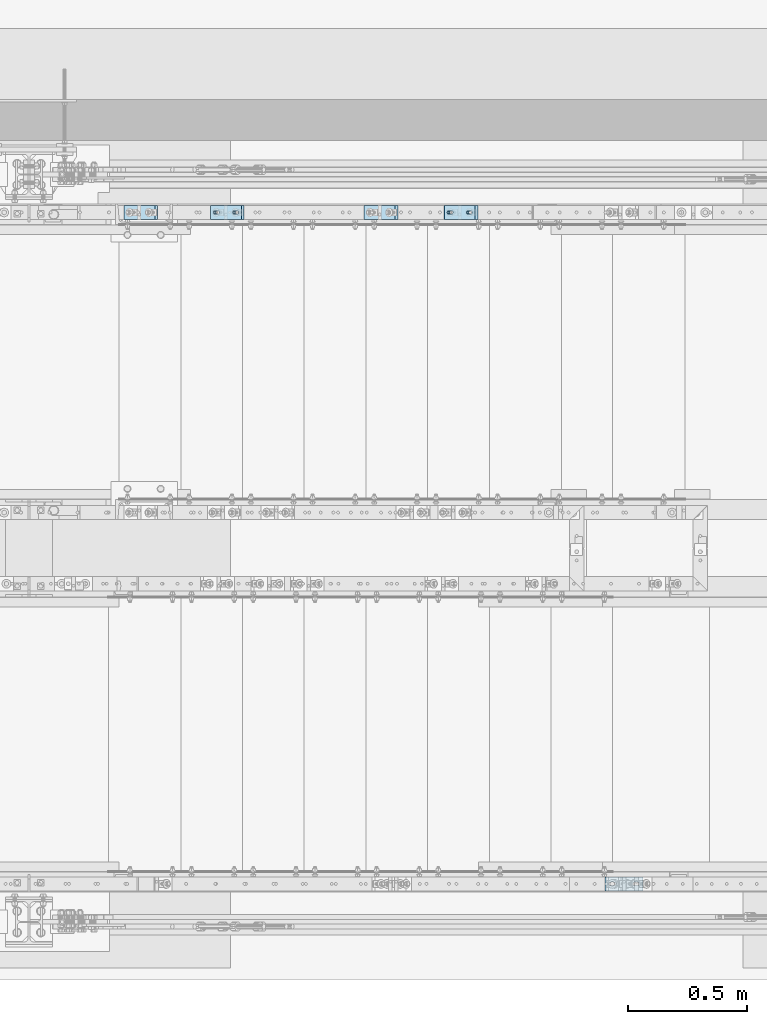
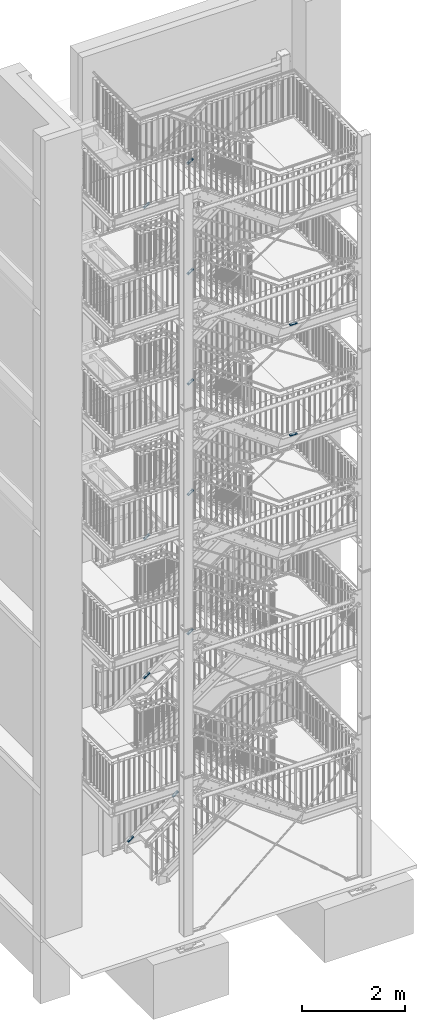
# One storey, part 197 of 831: 12 plates, 24 openings.
"""IFC2X3 building model written with IfcOpenShell, lengths in millimetres."""

from ifc_helpers import new_model, entity, si_unit, converted_unit, point, frame, frame_2d, origin, origin_with_axes, place, context, project, spatial, polyline, circle_curve, line_curve, trimmed, segment, composite_curve, outline, extrude, material, layer, layer_set, element, save


model = new_model("IFC2X3")

# Units and contexts
model_context = context("Model", 3, precision=1e-09, world=origin_with_axes())
ifc_project = project(units=[si_unit("LENGTHUNIT", "METRE", prefix="MILLI"), si_unit("AREAUNIT", "SQUARE_METRE"), si_unit("VOLUMEUNIT", "CUBIC_METRE"), converted_unit("PLANEANGLEUNIT", "DEGREE", entity("IfcPlaneAngleMeasure", 0.01745329), si_unit("PLANEANGLEUNIT", "RADIAN"), dimensions=[0, 0, 0, 0, 0, 0, 0])], contexts=[model_context])

# Site, building, storey
site_placement = place(None, origin_with_axes())
site = spatial("IfcSite", under=ifc_project, at=site_placement, Name="Site", CompositionType="ELEMENT")
building_placement = place(site_placement, origin_with_axes())
building = spatial("IfcBuilding", under=site, at=building_placement, Name="Struktur 1", CompositionType="ELEMENT")
storey_placement = place(building_placement, origin_with_axes())
storey = spatial("IfcBuildingStorey", under=building, at=storey_placement, Name="Default Storey", CompositionType="ELEMENT", Elevation=0.0)

# Plate, openings
ifc_material = material(Name="S235JR")
ifc_layer = layer(ifc_material, 20.0)
ifc_layer_set = layer_set([ifc_layer], Name="S235JR")
plate_1_placement = place(None, frame((6748.281324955, 7386.736971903, 11082.903552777), z_axis=(-0.585213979, 0.0, 0.810878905), x_axis=(-0.810878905, 0.0, -0.585213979)))
plate_1 = element("IfcPlate", 1, at=plate_1_placement, inside=storey, material=ifc_layer_set, Name="Plate#502", ObjectType="Plate#502", context=model_context, shape_type="SweptSolid", body=[
    extrude(outline(polyline([(0.0, 0.0), (160.0, 0.0), (160.0, 60.0), (0.0, 60.0), (0.0, 0.0)])), origin_with_axes(), (0.0, 0.0, 1.0), 20.0),
])
opening_1_placement = place(plate_1_placement, frame((38.0, 37.001, 20.5), z_axis=(0.0, 0.0, 1.0), x_axis=(-1.0, 0.0, 0.0)))
element("IfcOpeningElement", 2, at=opening_1_placement, cuts=plate_1, ObjectType="Opening", context=model_context, shape_type="SweptSolid", body=[
    extrude(outline(composite_curve([segment(trimmed(line_curve((0.0, 0.0), (1.0, 0.0), 16.0), [point((0.0, 0.0))], [point((16.0, 0.0))], True, "CARTESIAN"), True, "CONTINUOUS"), segment(trimmed(circle_curve(frame_2d((16.0, 7.001), x_axis=(1.0, 0.0)), 7.001), [point((16.0, 0.0))], [point((16.0, 14.002))], True, "CARTESIAN"), True, "CONTINUOUS"), segment(trimmed(line_curve((16.0, 14.002), (-1.0, 0.0), 16.0), [point((16.0, 14.002))], [point((0.0, 14.002))], True, "CARTESIAN"), True, "CONTINUOUS"), segment(trimmed(circle_curve(frame_2d((0.0, 7.001), x_axis=(1.0, 0.0)), 7.001), [point((0.0, 14.002))], [point((0.0, 0.0))], True, "CARTESIAN"), True, "CONTINUOUS")], self_intersect=False)), origin(), (0.0, 0.0, -1.0), 21.0),
])
opening_2_placement = place(plate_1_placement, frame((138.0, 37.001, 20.5), z_axis=(0.0, 0.0, 1.0), x_axis=(-1.0, 0.0, 0.0)))
element("IfcOpeningElement", 3, at=opening_2_placement, cuts=plate_1, ObjectType="Opening", context=model_context, shape_type="SweptSolid", body=[
    extrude(outline(composite_curve([segment(trimmed(line_curve((0.0, 0.0), (1.0, 0.0), 16.0), [point((0.0, 0.0))], [point((16.0, 0.0))], True, "CARTESIAN"), True, "CONTINUOUS"), segment(trimmed(circle_curve(frame_2d((16.0, 7.001), x_axis=(1.0, 0.0)), 7.001), [point((16.0, 0.0))], [point((16.0, 14.002))], True, "CARTESIAN"), True, "CONTINUOUS"), segment(trimmed(line_curve((16.0, 14.002), (-1.0, 0.0), 16.0), [point((16.0, 14.002))], [point((0.0, 14.002))], True, "CARTESIAN"), True, "CONTINUOUS"), segment(trimmed(circle_curve(frame_2d((0.0, 7.001), x_axis=(1.0, 0.0)), 7.001), [point((0.0, 14.002))], [point((0.0, 0.0))], True, "CARTESIAN"), True, "CONTINUOUS")], self_intersect=False)), origin(), (0.0, 0.0, -1.0), 21.0),
])

plate_2_placement = place(None, frame((7284.792117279, 4496.736971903, 11265.5000003), z_axis=(0.0, 0.0, 1.0), x_axis=(1.0, 0.0, 0.0)))
plate_2 = element("IfcPlate", 4, at=plate_2_placement, inside=storey, material=ifc_layer_set, Name="Plate#509", ObjectType="Plate#509", context=model_context, shape_type="SweptSolid", body=[
    extrude(outline(polyline([(0.0, 0.0), (160.0, 0.0), (160.0, 60.0), (0.0, 60.0), (0.0, 0.0)])), origin_with_axes(), (0.0, 0.0, 1.0), 20.0),
])
opening_3_placement = place(plate_2_placement, frame((38.0, 37.001, 20.5), z_axis=(0.0, 0.0, 1.0), x_axis=(-1.0, 0.0, 0.0)))
element("IfcOpeningElement", 5, at=opening_3_placement, cuts=plate_2, ObjectType="Opening", context=model_context, shape_type="SweptSolid", body=[
    extrude(outline(composite_curve([segment(trimmed(line_curve((0.0, 0.0), (1.0, 0.0), 16.0), [point((0.0, 0.0))], [point((16.0, 0.0))], True, "CARTESIAN"), True, "CONTINUOUS"), segment(trimmed(circle_curve(frame_2d((16.0, 7.001), x_axis=(1.0, 0.0)), 7.001), [point((16.0, 0.0))], [point((16.0, 14.002))], True, "CARTESIAN"), True, "CONTINUOUS"), segment(trimmed(line_curve((16.0, 14.002), (-1.0, 0.0), 16.0), [point((16.0, 14.002))], [point((0.0, 14.002))], True, "CARTESIAN"), True, "CONTINUOUS"), segment(trimmed(circle_curve(frame_2d((0.0, 7.001), x_axis=(1.0, 0.0)), 7.001), [point((0.0, 14.002))], [point((0.0, 0.0))], True, "CARTESIAN"), True, "CONTINUOUS")], self_intersect=False)), origin(), (0.0, 0.0, -1.0), 21.0),
])
opening_4_placement = place(plate_2_placement, frame((138.0, 37.001, 20.5), z_axis=(0.0, 0.0, 1.0), x_axis=(-1.0, 0.0, 0.0)))
element("IfcOpeningElement", 6, at=opening_4_placement, cuts=plate_2, ObjectType="Opening", context=model_context, shape_type="SweptSolid", body=[
    extrude(outline(composite_curve([segment(trimmed(line_curve((0.0, 0.0), (1.0, 0.0), 16.0), [point((0.0, 0.0))], [point((16.0, 0.0))], True, "CARTESIAN"), True, "CONTINUOUS"), segment(trimmed(circle_curve(frame_2d((16.0, 7.001), x_axis=(1.0, 0.0)), 7.001), [point((16.0, 0.0))], [point((16.0, 14.002))], True, "CARTESIAN"), True, "CONTINUOUS"), segment(trimmed(line_curve((16.0, 14.002), (-1.0, 0.0), 16.0), [point((16.0, 14.002))], [point((0.0, 14.002))], True, "CARTESIAN"), True, "CONTINUOUS"), segment(trimmed(circle_curve(frame_2d((0.0, 7.001), x_axis=(1.0, 0.0)), 7.001), [point((0.0, 14.002))], [point((0.0, 0.0))], True, "CARTESIAN"), True, "CONTINUOUS")], self_intersect=False)), origin(), (0.0, 0.0, -1.0), 21.0),
])

plate_3_placement = place(None, frame((6748.209294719, 7386.736971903, 13713.173537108), z_axis=(-0.586383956, 0.0, 0.810033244), x_axis=(-0.810033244, 0.0, -0.586383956)))
plate_3 = element("IfcPlate", 7, at=plate_3_placement, inside=storey, material=ifc_layer_set, Name="Plate#502", ObjectType="Plate#502", context=model_context, shape_type="SweptSolid", body=[
    extrude(outline(polyline([(0.0, 0.0), (160.0, 0.0), (160.0, 60.0), (0.0, 60.0), (0.0, 0.0)])), origin_with_axes(), (0.0, 0.0, 1.0), 20.0),
])
opening_5_placement = place(plate_3_placement, frame((38.0, 37.001, 20.5), z_axis=(0.0, 0.0, 1.0), x_axis=(-1.0, 0.0, 0.0)))
element("IfcOpeningElement", 8, at=opening_5_placement, cuts=plate_3, ObjectType="Opening", context=model_context, shape_type="SweptSolid", body=[
    extrude(outline(composite_curve([segment(trimmed(line_curve((0.0, 0.0), (1.0, 0.0), 16.0), [point((0.0, 0.0))], [point((16.0, 0.0))], True, "CARTESIAN"), True, "CONTINUOUS"), segment(trimmed(circle_curve(frame_2d((16.0, 7.001), x_axis=(1.0, 0.0)), 7.001), [point((16.0, 0.0))], [point((16.0, 14.002))], True, "CARTESIAN"), True, "CONTINUOUS"), segment(trimmed(line_curve((16.0, 14.002), (-1.0, 0.0), 16.0), [point((16.0, 14.002))], [point((0.0, 14.002))], True, "CARTESIAN"), True, "CONTINUOUS"), segment(trimmed(circle_curve(frame_2d((0.0, 7.001), x_axis=(1.0, 0.0)), 7.001), [point((0.0, 14.002))], [point((0.0, 0.0))], True, "CARTESIAN"), True, "CONTINUOUS")], self_intersect=False)), origin(), (0.0, 0.0, -1.0), 21.0),
])
opening_6_placement = place(plate_3_placement, frame((138.0, 37.001, 20.5), z_axis=(0.0, 0.0, 1.0), x_axis=(-1.0, 0.0, 0.0)))
element("IfcOpeningElement", 9, at=opening_6_placement, cuts=plate_3, ObjectType="Opening", context=model_context, shape_type="SweptSolid", body=[
    extrude(outline(composite_curve([segment(trimmed(line_curve((0.0, 0.0), (1.0, 0.0), 16.0), [point((0.0, 0.0))], [point((16.0, 0.0))], True, "CARTESIAN"), True, "CONTINUOUS"), segment(trimmed(circle_curve(frame_2d((16.0, 7.001), x_axis=(1.0, 0.0)), 7.001), [point((16.0, 0.0))], [point((16.0, 14.002))], True, "CARTESIAN"), True, "CONTINUOUS"), segment(trimmed(line_curve((16.0, 14.002), (-1.0, 0.0), 16.0), [point((16.0, 14.002))], [point((0.0, 14.002))], True, "CARTESIAN"), True, "CONTINUOUS"), segment(trimmed(circle_curve(frame_2d((0.0, 7.001), x_axis=(1.0, 0.0)), 7.001), [point((0.0, 14.002))], [point((0.0, 0.0))], True, "CARTESIAN"), True, "CONTINUOUS")], self_intersect=False)), origin(), (0.0, 0.0, -1.0), 21.0),
])

plate_4_placement = place(None, frame((7284.792117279, 4496.736971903, 13896.5000001), z_axis=(0.0, 0.0, 1.0), x_axis=(1.0, 0.0, 0.0)))
plate_4 = element("IfcPlate", 10, at=plate_4_placement, inside=storey, material=ifc_layer_set, Name="Plate#509", ObjectType="Plate#509", context=model_context, shape_type="SweptSolid", body=[
    extrude(outline(polyline([(0.0, 0.0), (160.0, 0.0), (160.0, 60.0), (0.0, 60.0), (0.0, 0.0)])), origin_with_axes(), (0.0, 0.0, 1.0), 20.0),
])
opening_7_placement = place(plate_4_placement, frame((38.0, 37.001, 20.5), z_axis=(0.0, 0.0, 1.0), x_axis=(-1.0, 0.0, 0.0)))
element("IfcOpeningElement", 11, at=opening_7_placement, cuts=plate_4, ObjectType="Opening", context=model_context, shape_type="SweptSolid", body=[
    extrude(outline(composite_curve([segment(trimmed(line_curve((0.0, 0.0), (1.0, 0.0), 16.0), [point((0.0, 0.0))], [point((16.0, 0.0))], True, "CARTESIAN"), True, "CONTINUOUS"), segment(trimmed(circle_curve(frame_2d((16.0, 7.001), x_axis=(1.0, 0.0)), 7.001), [point((16.0, 0.0))], [point((16.0, 14.002))], True, "CARTESIAN"), True, "CONTINUOUS"), segment(trimmed(line_curve((16.0, 14.002), (-1.0, 0.0), 16.0), [point((16.0, 14.002))], [point((0.0, 14.002))], True, "CARTESIAN"), True, "CONTINUOUS"), segment(trimmed(circle_curve(frame_2d((0.0, 7.001), x_axis=(1.0, 0.0)), 7.001), [point((0.0, 14.002))], [point((0.0, 0.0))], True, "CARTESIAN"), True, "CONTINUOUS")], self_intersect=False)), origin(), (0.0, 0.0, -1.0), 21.0),
])
opening_8_placement = place(plate_4_placement, frame((138.0, 37.001, 20.5), z_axis=(0.0, 0.0, 1.0), x_axis=(-1.0, 0.0, 0.0)))
element("IfcOpeningElement", 12, at=opening_8_placement, cuts=plate_4, ObjectType="Opening", context=model_context, shape_type="SweptSolid", body=[
    extrude(outline(composite_curve([segment(trimmed(line_curve((0.0, 0.0), (1.0, 0.0), 16.0), [point((0.0, 0.0))], [point((16.0, 0.0))], True, "CARTESIAN"), True, "CONTINUOUS"), segment(trimmed(circle_curve(frame_2d((16.0, 7.001), x_axis=(1.0, 0.0)), 7.001), [point((16.0, 0.0))], [point((16.0, 14.002))], True, "CARTESIAN"), True, "CONTINUOUS"), segment(trimmed(line_curve((16.0, 14.002), (-1.0, 0.0), 16.0), [point((16.0, 14.002))], [point((0.0, 14.002))], True, "CARTESIAN"), True, "CONTINUOUS"), segment(trimmed(circle_curve(frame_2d((0.0, 7.001), x_axis=(1.0, 0.0)), 7.001), [point((0.0, 14.002))], [point((0.0, 0.0))], True, "CARTESIAN"), True, "CONTINUOUS")], self_intersect=False)), origin(), (0.0, 0.0, -1.0), 21.0),
])

plate_5_placement = place(None, frame((5763.344213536, 7386.736971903, 15633.058440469), z_axis=(-0.584187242, 0.0, 0.811618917), x_axis=(-0.811618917, 0.0, -0.584187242)))
plate_5 = element("IfcPlate", 13, at=plate_5_placement, inside=storey, material=ifc_layer_set, Name="Plate#501", ObjectType="Plate#501", context=model_context, shape_type="SweptSolid", body=[
    extrude(outline(polyline([(0.0, 0.0), (160.0, 0.0), (160.0, 60.0), (0.0, 60.0), (0.0, 0.0)])), origin_with_axes(), (0.0, 0.0, 1.0), 20.0),
])
opening_9_placement = place(plate_5_placement, frame((38.0, 37.001, 20.5), z_axis=(0.0, 0.0, 1.0), x_axis=(-1.0, 0.0, 0.0)))
element("IfcOpeningElement", 14, at=opening_9_placement, cuts=plate_5, ObjectType="Opening", context=model_context, shape_type="SweptSolid", body=[
    extrude(outline(composite_curve([segment(trimmed(line_curve((0.0, 0.0), (1.0, 0.0), 16.0), [point((0.0, 0.0))], [point((16.0, 0.0))], True, "CARTESIAN"), True, "CONTINUOUS"), segment(trimmed(circle_curve(frame_2d((16.0, 7.001), x_axis=(1.0, 0.0)), 7.001), [point((16.0, 0.0))], [point((16.0, 14.002))], True, "CARTESIAN"), True, "CONTINUOUS"), segment(trimmed(line_curve((16.0, 14.002), (-1.0, 0.0), 16.0), [point((16.0, 14.002))], [point((0.0, 14.002))], True, "CARTESIAN"), True, "CONTINUOUS"), segment(trimmed(circle_curve(frame_2d((0.0, 7.001), x_axis=(1.0, 0.0)), 7.001), [point((0.0, 14.002))], [point((0.0, 0.0))], True, "CARTESIAN"), True, "CONTINUOUS")], self_intersect=False)), origin(), (0.0, 0.0, -1.0), 21.0),
])
opening_10_placement = place(plate_5_placement, frame((138.0, 37.001, 20.5), z_axis=(0.0, 0.0, 1.0), x_axis=(-1.0, 0.0, 0.0)))
element("IfcOpeningElement", 15, at=opening_10_placement, cuts=plate_5, ObjectType="Opening", context=model_context, shape_type="SweptSolid", body=[
    extrude(outline(composite_curve([segment(trimmed(line_curve((0.0, 0.0), (1.0, 0.0), 16.0), [point((0.0, 0.0))], [point((16.0, 0.0))], True, "CARTESIAN"), True, "CONTINUOUS"), segment(trimmed(circle_curve(frame_2d((16.0, 7.001), x_axis=(1.0, 0.0)), 7.001), [point((16.0, 0.0))], [point((16.0, 14.002))], True, "CARTESIAN"), True, "CONTINUOUS"), segment(trimmed(line_curve((16.0, 14.002), (-1.0, 0.0), 16.0), [point((16.0, 14.002))], [point((0.0, 14.002))], True, "CARTESIAN"), True, "CONTINUOUS"), segment(trimmed(circle_curve(frame_2d((0.0, 7.001), x_axis=(1.0, 0.0)), 7.001), [point((0.0, 14.002))], [point((0.0, 0.0))], True, "CARTESIAN"), True, "CONTINUOUS")], self_intersect=False)), origin(), (0.0, 0.0, -1.0), 21.0),
])

plate_6_placement = place(None, frame((6748.344356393, 7386.736971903, 16342.042059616), z_axis=(-0.584187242, 0.0, 0.811618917), x_axis=(-0.811618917, 0.0, -0.584187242)))
plate_6 = element("IfcPlate", 16, at=plate_6_placement, inside=storey, material=ifc_layer_set, Name="Plate#502", ObjectType="Plate#502", context=model_context, shape_type="SweptSolid", body=[
    extrude(outline(polyline([(0.0, 0.0), (160.0, 0.0), (160.0, 60.0), (0.0, 60.0), (0.0, 0.0)])), origin_with_axes(), (0.0, 0.0, 1.0), 20.0),
])
opening_11_placement = place(plate_6_placement, frame((38.0, 37.001, 20.5), z_axis=(0.0, 0.0, 1.0), x_axis=(-1.0, 0.0, 0.0)))
element("IfcOpeningElement", 17, at=opening_11_placement, cuts=plate_6, ObjectType="Opening", context=model_context, shape_type="SweptSolid", body=[
    extrude(outline(composite_curve([segment(trimmed(line_curve((0.0, 0.0), (1.0, 0.0), 16.0), [point((0.0, 0.0))], [point((16.0, 0.0))], True, "CARTESIAN"), True, "CONTINUOUS"), segment(trimmed(circle_curve(frame_2d((16.0, 7.001), x_axis=(1.0, 0.0)), 7.001), [point((16.0, 0.0))], [point((16.0, 14.002))], True, "CARTESIAN"), True, "CONTINUOUS"), segment(trimmed(line_curve((16.0, 14.002), (-1.0, 0.0), 16.0), [point((16.0, 14.002))], [point((0.0, 14.002))], True, "CARTESIAN"), True, "CONTINUOUS"), segment(trimmed(circle_curve(frame_2d((0.0, 7.001), x_axis=(1.0, 0.0)), 7.001), [point((0.0, 14.002))], [point((0.0, 0.0))], True, "CARTESIAN"), True, "CONTINUOUS")], self_intersect=False)), origin(), (0.0, 0.0, -1.0), 21.0),
])
opening_12_placement = place(plate_6_placement, frame((138.0, 37.001, 20.5), z_axis=(0.0, 0.0, 1.0), x_axis=(-1.0, 0.0, 0.0)))
element("IfcOpeningElement", 18, at=opening_12_placement, cuts=plate_6, ObjectType="Opening", context=model_context, shape_type="SweptSolid", body=[
    extrude(outline(composite_curve([segment(trimmed(line_curve((0.0, 0.0), (1.0, 0.0), 16.0), [point((0.0, 0.0))], [point((16.0, 0.0))], True, "CARTESIAN"), True, "CONTINUOUS"), segment(trimmed(circle_curve(frame_2d((16.0, 7.001), x_axis=(1.0, 0.0)), 7.001), [point((16.0, 0.0))], [point((16.0, 14.002))], True, "CARTESIAN"), True, "CONTINUOUS"), segment(trimmed(line_curve((16.0, 14.002), (-1.0, 0.0), 16.0), [point((16.0, 14.002))], [point((0.0, 14.002))], True, "CARTESIAN"), True, "CONTINUOUS"), segment(trimmed(circle_curve(frame_2d((0.0, 7.001), x_axis=(1.0, 0.0)), 7.001), [point((0.0, 14.002))], [point((0.0, 0.0))], True, "CARTESIAN"), True, "CONTINUOUS")], self_intersect=False)), origin(), (0.0, 0.0, -1.0), 21.0),
])

plate_7_placement = place(None, frame((5398.387570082, 7386.736971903, 670.208105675), z_axis=(-0.579973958, 0.0, 0.814635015), x_axis=(-0.814635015, 0.0, -0.579973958)))
plate_7 = element("IfcPlate", 19, at=plate_7_placement, inside=storey, material=ifc_layer_set, Name="Plate#500", ObjectType="Plate#500", context=model_context, shape_type="SweptSolid", body=[
    extrude(outline(polyline([(0.0, 0.0), (160.0, 0.0), (160.0, 60.0), (0.0, 60.0), (0.0, 0.0)])), origin_with_axes(), (0.0, 0.0, 1.0), 20.0),
])
opening_13_placement = place(plate_7_placement, frame((38.0, 37.001, 20.5), z_axis=(0.0, 0.0, 1.0), x_axis=(-1.0, 0.0, 0.0)))
element("IfcOpeningElement", 20, at=opening_13_placement, cuts=plate_7, ObjectType="Opening", context=model_context, shape_type="SweptSolid", body=[
    extrude(outline(composite_curve([segment(trimmed(line_curve((0.0, 0.0), (1.0, 0.0), 16.0), [point((0.0, 0.0))], [point((16.0, 0.0))], True, "CARTESIAN"), True, "CONTINUOUS"), segment(trimmed(circle_curve(frame_2d((16.0, 7.001), x_axis=(1.0, 0.0)), 7.001), [point((16.0, 0.0))], [point((16.0, 14.002))], True, "CARTESIAN"), True, "CONTINUOUS"), segment(trimmed(line_curve((16.0, 14.002), (-1.0, 0.0), 16.0), [point((16.0, 14.002))], [point((0.0, 14.002))], True, "CARTESIAN"), True, "CONTINUOUS"), segment(trimmed(circle_curve(frame_2d((0.0, 7.001), x_axis=(1.0, 0.0)), 7.001), [point((0.0, 14.002))], [point((0.0, 0.0))], True, "CARTESIAN"), True, "CONTINUOUS")], self_intersect=False)), origin(), (0.0, 0.0, -1.0), 21.0),
])
opening_14_placement = place(plate_7_placement, frame((138.0, 37.001, 20.5), z_axis=(0.0, 0.0, 1.0), x_axis=(-1.0, 0.0, 0.0)))
element("IfcOpeningElement", 21, at=opening_14_placement, cuts=plate_7, ObjectType="Opening", context=model_context, shape_type="SweptSolid", body=[
    extrude(outline(composite_curve([segment(trimmed(line_curve((0.0, 0.0), (1.0, 0.0), 16.0), [point((0.0, 0.0))], [point((16.0, 0.0))], True, "CARTESIAN"), True, "CONTINUOUS"), segment(trimmed(circle_curve(frame_2d((16.0, 7.001), x_axis=(1.0, 0.0)), 7.001), [point((16.0, 0.0))], [point((16.0, 14.002))], True, "CARTESIAN"), True, "CONTINUOUS"), segment(trimmed(line_curve((16.0, 14.002), (-1.0, 0.0), 16.0), [point((16.0, 14.002))], [point((0.0, 14.002))], True, "CARTESIAN"), True, "CONTINUOUS"), segment(trimmed(circle_curve(frame_2d((0.0, 7.001), x_axis=(1.0, 0.0)), 7.001), [point((0.0, 14.002))], [point((0.0, 0.0))], True, "CARTESIAN"), True, "CONTINUOUS")], self_intersect=False)), origin(), (0.0, 0.0, -1.0), 21.0),
])

plate_8_placement = place(None, frame((6411.464687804, 7386.736971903, 1391.461592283), z_axis=(-0.579973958, 0.0, 0.814635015), x_axis=(-0.814635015, 0.0, -0.579973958)))
plate_8 = element("IfcPlate", 22, at=plate_8_placement, inside=storey, material=ifc_layer_set, Name="Plate#501", ObjectType="Plate#501", context=model_context, shape_type="SweptSolid", body=[
    extrude(outline(polyline([(0.0, 0.0), (160.0, 0.0), (160.0, 60.0), (0.0, 60.0), (0.0, 0.0)])), origin_with_axes(), (0.0, 0.0, 1.0), 20.0),
])
opening_15_placement = place(plate_8_placement, frame((38.0, 37.001, 20.5), z_axis=(0.0, 0.0, 1.0), x_axis=(-1.0, 0.0, 0.0)))
element("IfcOpeningElement", 23, at=opening_15_placement, cuts=plate_8, ObjectType="Opening", context=model_context, shape_type="SweptSolid", body=[
    extrude(outline(composite_curve([segment(trimmed(line_curve((0.0, 0.0), (1.0, 0.0), 16.0), [point((0.0, 0.0))], [point((16.0, 0.0))], True, "CARTESIAN"), True, "CONTINUOUS"), segment(trimmed(circle_curve(frame_2d((16.0, 7.001), x_axis=(1.0, 0.0)), 7.001), [point((16.0, 0.0))], [point((16.0, 14.002))], True, "CARTESIAN"), True, "CONTINUOUS"), segment(trimmed(line_curve((16.0, 14.002), (-1.0, 0.0), 16.0), [point((16.0, 14.002))], [point((0.0, 14.002))], True, "CARTESIAN"), True, "CONTINUOUS"), segment(trimmed(circle_curve(frame_2d((0.0, 7.001), x_axis=(1.0, 0.0)), 7.001), [point((0.0, 14.002))], [point((0.0, 0.0))], True, "CARTESIAN"), True, "CONTINUOUS")], self_intersect=False)), origin(), (0.0, 0.0, -1.0), 21.0),
])
opening_16_placement = place(plate_8_placement, frame((138.0, 37.001, 20.5), z_axis=(0.0, 0.0, 1.0), x_axis=(-1.0, 0.0, 0.0)))
element("IfcOpeningElement", 24, at=opening_16_placement, cuts=plate_8, ObjectType="Opening", context=model_context, shape_type="SweptSolid", body=[
    extrude(outline(composite_curve([segment(trimmed(line_curve((0.0, 0.0), (1.0, 0.0), 16.0), [point((0.0, 0.0))], [point((16.0, 0.0))], True, "CARTESIAN"), True, "CONTINUOUS"), segment(trimmed(circle_curve(frame_2d((16.0, 7.001), x_axis=(1.0, 0.0)), 7.001), [point((16.0, 0.0))], [point((16.0, 14.002))], True, "CARTESIAN"), True, "CONTINUOUS"), segment(trimmed(line_curve((16.0, 14.002), (-1.0, 0.0), 16.0), [point((16.0, 14.002))], [point((0.0, 14.002))], True, "CARTESIAN"), True, "CONTINUOUS"), segment(trimmed(circle_curve(frame_2d((0.0, 7.001), x_axis=(1.0, 0.0)), 7.001), [point((0.0, 14.002))], [point((0.0, 0.0))], True, "CARTESIAN"), True, "CONTINUOUS")], self_intersect=False)), origin(), (0.0, 0.0, -1.0), 21.0),
])

plate_9_placement = place(None, frame((5763.731258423, 7386.736971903, 4440.302229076), z_axis=(-0.575128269, 0.0, 0.818063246), x_axis=(-0.818063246, 0.0, -0.575128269)))
plate_9 = element("IfcPlate", 25, at=plate_9_placement, inside=storey, material=ifc_layer_set, Name="Plate#501", ObjectType="Plate#501", context=model_context, shape_type="SweptSolid", body=[
    extrude(outline(polyline([(0.0, 0.0), (160.0, 0.0), (160.0, 60.0), (0.0, 60.0), (0.0, 0.0)])), origin_with_axes(), (0.0, 0.0, 1.0), 20.0),
])
opening_17_placement = place(plate_9_placement, frame((38.0, 37.001, 20.5), z_axis=(0.0, 0.0, 1.0), x_axis=(-1.0, 0.0, 0.0)))
element("IfcOpeningElement", 26, at=opening_17_placement, cuts=plate_9, ObjectType="Opening", context=model_context, shape_type="SweptSolid", body=[
    extrude(outline(composite_curve([segment(trimmed(line_curve((0.0, 0.0), (1.0, 0.0), 16.0), [point((0.0, 0.0))], [point((16.0, 0.0))], True, "CARTESIAN"), True, "CONTINUOUS"), segment(trimmed(circle_curve(frame_2d((16.0, 7.001), x_axis=(1.0, 0.0)), 7.001), [point((16.0, 0.0))], [point((16.0, 14.002))], True, "CARTESIAN"), True, "CONTINUOUS"), segment(trimmed(line_curve((16.0, 14.002), (-1.0, 0.0), 16.0), [point((16.0, 14.002))], [point((0.0, 14.002))], True, "CARTESIAN"), True, "CONTINUOUS"), segment(trimmed(circle_curve(frame_2d((0.0, 7.001), x_axis=(1.0, 0.0)), 7.001), [point((0.0, 14.002))], [point((0.0, 0.0))], True, "CARTESIAN"), True, "CONTINUOUS")], self_intersect=False)), origin(), (0.0, 0.0, -1.0), 21.0),
])
opening_18_placement = place(plate_9_placement, frame((138.0, 37.001, 20.5), z_axis=(0.0, 0.0, 1.0), x_axis=(-1.0, 0.0, 0.0)))
element("IfcOpeningElement", 27, at=opening_18_placement, cuts=plate_9, ObjectType="Opening", context=model_context, shape_type="SweptSolid", body=[
    extrude(outline(composite_curve([segment(trimmed(line_curve((0.0, 0.0), (1.0, 0.0), 16.0), [point((0.0, 0.0))], [point((16.0, 0.0))], True, "CARTESIAN"), True, "CONTINUOUS"), segment(trimmed(circle_curve(frame_2d((16.0, 7.001), x_axis=(1.0, 0.0)), 7.001), [point((16.0, 0.0))], [point((16.0, 14.002))], True, "CARTESIAN"), True, "CONTINUOUS"), segment(trimmed(line_curve((16.0, 14.002), (-1.0, 0.0), 16.0), [point((16.0, 14.002))], [point((0.0, 14.002))], True, "CARTESIAN"), True, "CONTINUOUS"), segment(trimmed(circle_curve(frame_2d((0.0, 7.001), x_axis=(1.0, 0.0)), 7.001), [point((0.0, 14.002))], [point((0.0, 0.0))], True, "CARTESIAN"), True, "CONTINUOUS")], self_intersect=False)), origin(), (0.0, 0.0, -1.0), 21.0),
])

plate_10_placement = place(None, frame((6748.73140129, 7386.736971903, 5132.793220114), z_axis=(-0.575128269, 0.0, 0.818063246), x_axis=(-0.818063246, 0.0, -0.575128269)))
plate_10 = element("IfcPlate", 28, at=plate_10_placement, inside=storey, material=ifc_layer_set, Name="Plate#502", ObjectType="Plate#502", context=model_context, shape_type="SweptSolid", body=[
    extrude(outline(polyline([(0.0, 0.0), (160.0, 0.0), (160.0, 60.0), (0.0, 60.0), (0.0, 0.0)])), origin_with_axes(), (0.0, 0.0, 1.0), 20.0),
])
opening_19_placement = place(plate_10_placement, frame((38.0, 37.001, 20.5), z_axis=(0.0, 0.0, 1.0), x_axis=(-1.0, 0.0, 0.0)))
element("IfcOpeningElement", 29, at=opening_19_placement, cuts=plate_10, ObjectType="Opening", context=model_context, shape_type="SweptSolid", body=[
    extrude(outline(composite_curve([segment(trimmed(line_curve((0.0, 0.0), (1.0, 0.0), 16.0), [point((0.0, 0.0))], [point((16.0, 0.0))], True, "CARTESIAN"), True, "CONTINUOUS"), segment(trimmed(circle_curve(frame_2d((16.0, 7.001), x_axis=(1.0, 0.0)), 7.001), [point((16.0, 0.0))], [point((16.0, 14.002))], True, "CARTESIAN"), True, "CONTINUOUS"), segment(trimmed(line_curve((16.0, 14.002), (-1.0, 0.0), 16.0), [point((16.0, 14.002))], [point((0.0, 14.002))], True, "CARTESIAN"), True, "CONTINUOUS"), segment(trimmed(circle_curve(frame_2d((0.0, 7.001), x_axis=(1.0, 0.0)), 7.001), [point((0.0, 14.002))], [point((0.0, 0.0))], True, "CARTESIAN"), True, "CONTINUOUS")], self_intersect=False)), origin(), (0.0, 0.0, -1.0), 21.0),
])
opening_20_placement = place(plate_10_placement, frame((138.0, 37.001, 20.5), z_axis=(0.0, 0.0, 1.0), x_axis=(-1.0, 0.0, 0.0)))
element("IfcOpeningElement", 30, at=opening_20_placement, cuts=plate_10, ObjectType="Opening", context=model_context, shape_type="SweptSolid", body=[
    extrude(outline(composite_curve([segment(trimmed(line_curve((0.0, 0.0), (1.0, 0.0), 16.0), [point((0.0, 0.0))], [point((16.0, 0.0))], True, "CARTESIAN"), True, "CONTINUOUS"), segment(trimmed(circle_curve(frame_2d((16.0, 7.001), x_axis=(1.0, 0.0)), 7.001), [point((16.0, 0.0))], [point((16.0, 14.002))], True, "CARTESIAN"), True, "CONTINUOUS"), segment(trimmed(line_curve((16.0, 14.002), (-1.0, 0.0), 16.0), [point((16.0, 14.002))], [point((0.0, 14.002))], True, "CARTESIAN"), True, "CONTINUOUS"), segment(trimmed(circle_curve(frame_2d((0.0, 7.001), x_axis=(1.0, 0.0)), 7.001), [point((0.0, 14.002))], [point((0.0, 0.0))], True, "CARTESIAN"), True, "CONTINUOUS")], self_intersect=False)), origin(), (0.0, 0.0, -1.0), 21.0),
])

plate_11_placement = place(None, frame((5763.236162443, 7386.736971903, 7740.716456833), z_axis=(-0.585945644, 0.0, 0.810350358), x_axis=(-0.810350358, 0.0, -0.585945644)))
plate_11 = element("IfcPlate", 31, at=plate_11_placement, inside=storey, material=ifc_layer_set, Name="Plate#501", ObjectType="Plate#501", context=model_context, shape_type="SweptSolid", body=[
    extrude(outline(polyline([(0.0, 0.0), (160.0, 0.0), (160.0, 60.0), (0.0, 60.0), (0.0, 0.0)])), origin_with_axes(), (0.0, 0.0, 1.0), 20.0),
])
opening_21_placement = place(plate_11_placement, frame((38.0, 37.001, 20.5), z_axis=(0.0, 0.0, 1.0), x_axis=(-1.0, 0.0, 0.0)))
element("IfcOpeningElement", 32, at=opening_21_placement, cuts=plate_11, ObjectType="Opening", context=model_context, shape_type="SweptSolid", body=[
    extrude(outline(composite_curve([segment(trimmed(line_curve((0.0, 0.0), (1.0, 0.0), 16.0), [point((0.0, 0.0))], [point((16.0, 0.0))], True, "CARTESIAN"), True, "CONTINUOUS"), segment(trimmed(circle_curve(frame_2d((16.0, 7.001), x_axis=(1.0, 0.0)), 7.001), [point((16.0, 0.0))], [point((16.0, 14.002))], True, "CARTESIAN"), True, "CONTINUOUS"), segment(trimmed(line_curve((16.0, 14.002), (-1.0, 0.0), 16.0), [point((16.0, 14.002))], [point((0.0, 14.002))], True, "CARTESIAN"), True, "CONTINUOUS"), segment(trimmed(circle_curve(frame_2d((0.0, 7.001), x_axis=(1.0, 0.0)), 7.001), [point((0.0, 14.002))], [point((0.0, 0.0))], True, "CARTESIAN"), True, "CONTINUOUS")], self_intersect=False)), origin(), (0.0, 0.0, -1.0), 21.0),
])
opening_22_placement = place(plate_11_placement, frame((138.0, 37.001, 20.5), z_axis=(0.0, 0.0, 1.0), x_axis=(-1.0, 0.0, 0.0)))
element("IfcOpeningElement", 33, at=opening_22_placement, cuts=plate_11, ObjectType="Opening", context=model_context, shape_type="SweptSolid", body=[
    extrude(outline(composite_curve([segment(trimmed(line_curve((0.0, 0.0), (1.0, 0.0), 16.0), [point((0.0, 0.0))], [point((16.0, 0.0))], True, "CARTESIAN"), True, "CONTINUOUS"), segment(trimmed(circle_curve(frame_2d((16.0, 7.001), x_axis=(1.0, 0.0)), 7.001), [point((16.0, 0.0))], [point((16.0, 14.002))], True, "CARTESIAN"), True, "CONTINUOUS"), segment(trimmed(line_curve((16.0, 14.002), (-1.0, 0.0), 16.0), [point((16.0, 14.002))], [point((0.0, 14.002))], True, "CARTESIAN"), True, "CONTINUOUS"), segment(trimmed(circle_curve(frame_2d((0.0, 7.001), x_axis=(1.0, 0.0)), 7.001), [point((0.0, 14.002))], [point((0.0, 0.0))], True, "CARTESIAN"), True, "CONTINUOUS")], self_intersect=False)), origin(), (0.0, 0.0, -1.0), 21.0),
])

plate_12_placement = place(None, frame((6748.2363053, 7386.736971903, 8452.94732936), z_axis=(-0.585945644, 0.0, 0.810350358), x_axis=(-0.810350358, 0.0, -0.585945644)))
plate_12 = element("IfcPlate", 34, at=plate_12_placement, inside=storey, material=ifc_layer_set, Name="Plate#502", ObjectType="Plate#502", context=model_context, shape_type="SweptSolid", body=[
    extrude(outline(polyline([(0.0, 0.0), (160.0, 0.0), (160.0, 60.0), (0.0, 60.0), (0.0, 0.0)])), origin_with_axes(), (0.0, 0.0, 1.0), 20.0),
])
opening_23_placement = place(plate_12_placement, frame((38.0, 37.001, 20.5), z_axis=(0.0, 0.0, 1.0), x_axis=(-1.0, 0.0, 0.0)))
element("IfcOpeningElement", 35, at=opening_23_placement, cuts=plate_12, ObjectType="Opening", context=model_context, shape_type="SweptSolid", body=[
    extrude(outline(composite_curve([segment(trimmed(line_curve((0.0, 0.0), (1.0, 0.0), 16.0), [point((0.0, 0.0))], [point((16.0, 0.0))], True, "CARTESIAN"), True, "CONTINUOUS"), segment(trimmed(circle_curve(frame_2d((16.0, 7.001), x_axis=(1.0, 0.0)), 7.001), [point((16.0, 0.0))], [point((16.0, 14.002))], True, "CARTESIAN"), True, "CONTINUOUS"), segment(trimmed(line_curve((16.0, 14.002), (-1.0, 0.0), 16.0), [point((16.0, 14.002))], [point((0.0, 14.002))], True, "CARTESIAN"), True, "CONTINUOUS"), segment(trimmed(circle_curve(frame_2d((0.0, 7.001), x_axis=(1.0, 0.0)), 7.001), [point((0.0, 14.002))], [point((0.0, 0.0))], True, "CARTESIAN"), True, "CONTINUOUS")], self_intersect=False)), origin(), (0.0, 0.0, -1.0), 21.0),
])
opening_24_placement = place(plate_12_placement, frame((138.0, 37.001, 20.5), z_axis=(0.0, 0.0, 1.0), x_axis=(-1.0, 0.0, 0.0)))
element("IfcOpeningElement", 36, at=opening_24_placement, cuts=plate_12, ObjectType="Opening", context=model_context, shape_type="SweptSolid", body=[
    extrude(outline(composite_curve([segment(trimmed(line_curve((0.0, 0.0), (1.0, 0.0), 16.0), [point((0.0, 0.0))], [point((16.0, 0.0))], True, "CARTESIAN"), True, "CONTINUOUS"), segment(trimmed(circle_curve(frame_2d((16.0, 7.001), x_axis=(1.0, 0.0)), 7.001), [point((16.0, 0.0))], [point((16.0, 14.002))], True, "CARTESIAN"), True, "CONTINUOUS"), segment(trimmed(line_curve((16.0, 14.002), (-1.0, 0.0), 16.0), [point((16.0, 14.002))], [point((0.0, 14.002))], True, "CARTESIAN"), True, "CONTINUOUS"), segment(trimmed(circle_curve(frame_2d((0.0, 7.001), x_axis=(1.0, 0.0)), 7.001), [point((0.0, 14.002))], [point((0.0, 0.0))], True, "CARTESIAN"), True, "CONTINUOUS")], self_intersect=False)), origin(), (0.0, 0.0, -1.0), 21.0),
])

save(model, "model.ifc")
